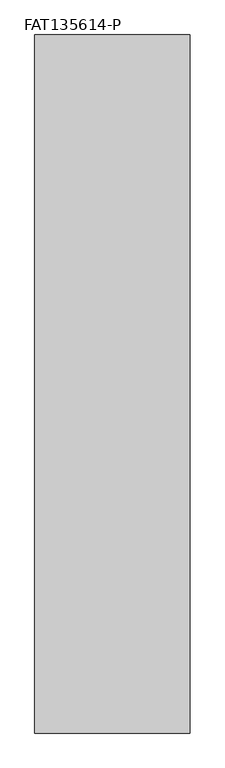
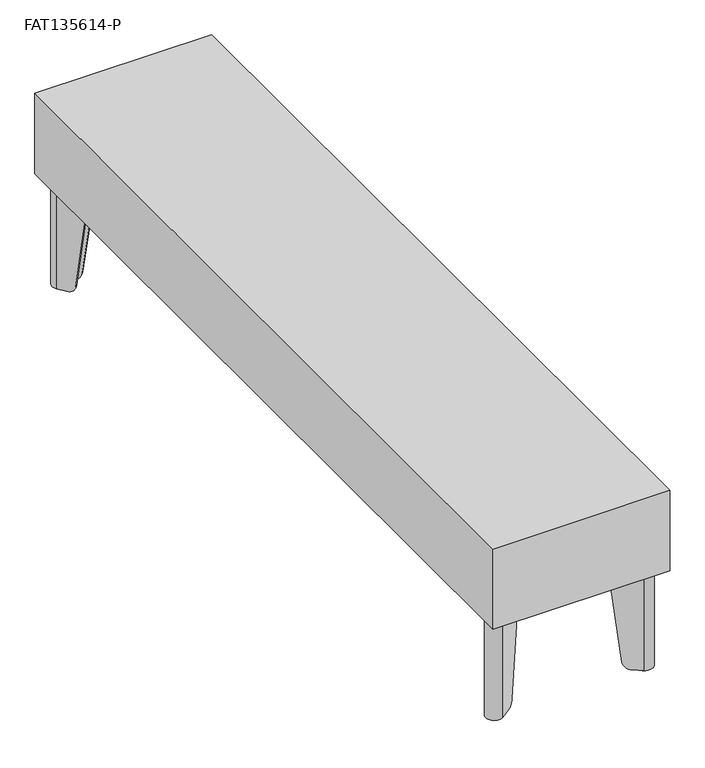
"""IFC4 building model written with IfcOpenShell, lengths in millimetres: furniture geometry, Stance_HC-Flora-Table_Straight : FAT135614-P."""

from ifc_helpers import new_model, si_unit, point, frame, frame_2d, origin, origin_with_axes, place, context, project, spatial, polyline, circle_curve, ellipse_curve, trimmed, segment, composite_curve, outline, extrude, source, transform, mapped, element, save
from ifc_brep_helpers import plane_surface, cylinder_surface, revolved_surface, advanced_brep


def fat135614_p_c2833e48(model_context):
    return source(origin(), model_context, "Body", "SolidModel", [
        extrude(outline(composite_curve([segment(polyline([(274.1779251, -48.593371), (287.4828248, -39.2771437)]), True, "CONTINUOUS"), segment(trimmed(circle_curve(frame_2d((294.1333442, -48.7750329)), 11.5947965), [point((287.4828248, -39.2771437))], [point((303.6312333, -55.4255523))], False, "CARTESIAN"), True, "CONTINUOUS"), segment(polyline([(303.6312333, -55.4255523), (294.315006, -68.730452), (274.1779251, -48.593371)]), True, "CONTINUOUS")], self_intersect=False)), frame((0.0, 0.0, 3.175), z_axis=(0.0, 0.0, 1.0), x_axis=(1.0, 0.0, 0.0)), (0.0, 0.0, 1.0), 3.3792927),
        advanced_brep(
        [(274.3401042, -102.8613619, 193.6877233), (306.2642107, -57.26919, 193.6877233), (285.6391871, -36.6441664, 193.6877233), (240.0470178, -68.568271, 193.6877233), (241.8906556, -71.2012484, 193.6877233), (287.4828248, -39.2771437, 193.6877233), (303.6312333, -55.4255523, 193.6877233), (271.7071268, -101.0177242, 193.6877233), (274.3401042, -102.8613619, 189.1419595), (303.6312333, -55.4255523, 3.1876992), (293.5105238, -69.8793673, 3.1876992), (284.3334277, -82.9855678, 17.1280233), (287.4828248, -39.2771437, 3.1876992), (259.9228092, -58.5749494, 17.1280233), (273.0290098, -49.3978533, 3.1876992), (240.0470178, -68.568271, 189.1419334), (285.6391871, -36.6441664, 3.1876992), (270.7211121, -47.0899556, 3.1876992), (257.6149115, -56.2670517, 17.1280233), (306.2642107, -57.26919, 3.1876992), (286.6413254, -85.2934656, 17.1280233), (295.8184215, -72.187265, 3.1876992)],
        [
            (0, 1),
            (1, 2, circle_curve(frame((294.1333442, -48.7750329, 193.6877233), z_axis=(0.0, 0.0, 1.0), x_axis=(-1.0, 0.0, 0.0)), 14.8090724)),
            (2, 3),
            (3, 4),
            (4, 5),
            (5, 6, circle_curve(frame((294.1333442, -48.7750329, 193.6877233), z_axis=(0.0, 0.0, -1.0), x_axis=(-1.0, 0.0, 0.0)), 11.5947965)),
            (6, 7),
            (7, 0),
            (7, 8),
            (8, 0),
            (6, 9),
            (9, 10),
            (10, 11, ellipse_curve(frame((293.5105238, -69.8793673, 19.0626992), z_axis=(-0.8191509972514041, 0.5735779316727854, 0.0), x_axis=(-0.5735779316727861, -0.8191509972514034, 0.0)), 16.1198923, 15.875)),
            (11, 7),
            (5, 12),
            (12, 9, circle_curve(frame((294.1333442, -48.7750329, 3.1876992), z_axis=(0.0, 0.0, -1.0), x_axis=(-1.0, 0.0, 0.0)), 11.5947965)),
            (4, 13),
            (13, 14, ellipse_curve(frame((273.0290098, -49.3978533, 19.0626992), z_axis=(0.5735779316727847, -0.8191509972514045, 0.0), x_axis=(0.8191509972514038, 0.5735779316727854, 0.0)), 16.1198923, 15.875)),
            (14, 12),
            (3, 15),
            (15, 4),
            (2, 16),
            (16, 17),
            (17, 18, ellipse_curve(frame((270.7211121, -47.0899556, 19.0626992), z_axis=(-0.5735779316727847, 0.8191509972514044, 0.0), x_axis=(0.8191509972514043, 0.573577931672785, 0.0)), 16.1198923, 15.875)),
            (18, 15),
            (1, 19),
            (19, 16, circle_curve(frame((294.1333442, -48.7750329, 3.1876992), z_axis=(0.0, 0.0, 1.0), x_axis=(-1.0, 0.0, 0.0)), 14.8090724)),
            (8, 20),
            (20, 21, ellipse_curve(frame((295.8184215, -72.187265, 19.0626992), z_axis=(0.8191509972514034, -0.5735779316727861, 0.0), x_axis=(-0.5735779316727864, -0.8191509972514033, 0.0)), 16.1198923, 15.875)),
            (21, 19),
            (18, 13),
            (11, 20),
            (21, 10),
            (14, 17),
        ],
        [
            plane_surface(frame((271.7071268, -101.0177242, 193.6877233), z_axis=(0.0, 0.0, 1.0000000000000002), x_axis=(-0.8191509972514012, 0.5735779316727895, 0.0))),
            plane_surface(frame((274.3401042, -102.8613619, 193.6877233), z_axis=(-0.5735779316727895, -0.8191509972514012, 0.0), x_axis=(0.0, 0.0, -1.0))),
            plane_surface(frame((271.7071268, -101.0177242, 193.6877233), z_axis=(-0.8191509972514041, 0.5735779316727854, 0.0), x_axis=(0.0, 0.0, -1.0))),
            revolved_surface(polyline([(282.53854770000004, -48.7750329, 3.1876992), (282.53854770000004, -48.7750329, 193.6877233)]), (294.1333442, -48.7750329, 0.0), (0.0, 0.0, -1.0)),
            plane_surface(frame((287.4828248, -39.2771437, 193.6877233), z_axis=(0.5735779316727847, -0.8191509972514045, 0.0), x_axis=(0.0, 0.0, -1.0))),
            plane_surface(frame((241.8906556, -71.2012484, 193.6877233), z_axis=(-0.8191509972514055, -0.5735779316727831, 0.0), x_axis=(0.0, 0.0, -1.0))),
            plane_surface(frame((240.0470178, -68.568271, 193.6877233), z_axis=(-0.5735779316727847, 0.8191509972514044, 0.0), x_axis=(0.0, 0.0, -1.0))),
            cylinder_surface(frame((294.1333442, -48.7750329, 0.0), z_axis=(0.0, 0.0, 1.0), x_axis=(-1.0, 0.0, 0.0)), 14.8090724),
            plane_surface(frame((306.2642107, -57.26919, 193.6877233), z_axis=(0.8191509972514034, -0.5735779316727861, 0.0), x_axis=(0.0, 0.0, -1.0))),
            plane_surface(frame((251.7311084, -50.3832485, 17.1280233), z_axis=(-0.7018361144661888, -0.7018361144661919, -0.12186934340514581), x_axis=(0.7071067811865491, -0.707106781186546, 0.0))),
            plane_surface(frame((284.2214639, -17.8928931, 3.1876992), z_axis=(0.0, 0.0, -1.0), x_axis=(0.707106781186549, -0.707106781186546, 0.0))),
            cylinder_surface(frame((303.6583998, -80.0272433, 19.0626992), z_axis=(0.7071067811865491, -0.707106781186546, 0.0), x_axis=(-0.707106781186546, -0.7071067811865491, 0.0)), 15.875),
        ],
        [
            (0, [[1, 2, 3, 4, 5, 6, 7, 8]]),
            (1, [[9, 10, -8]]),
            (2, [[11, 12, 13, 14, -7]]),
            (3, [[15, 16, -11, -6]]),
            (4, [[17, 18, 19, -15, -5]]),
            (5, [[20, 21, -4]]),
            (6, [[22, 23, 24, 25, -20, -3]]),
            (7, [[26, 27, -22, -2]]),
            (8, [[-10, 28, 29, 30, -26, -1]]),
            (9, [[-17, -21, -25, 31]]),
            (9, [[-28, -9, -14, 32]]),
            (10, [[-23, -27, -30, 33, -12, -16, -19, 34]]),
            (11, [[-13, -33, -29, -32]]),
            (11, [[-24, -34, -18, -31]]),
        ],
    ),
        extrude(outline(composite_curve([segment(trimmed(circle_curve(frame_2d((292.1, -50.8)), 11.1125), [point((303.2125, -50.8))], [point((280.9875, -50.8))], False, "CARTESIAN"), True, "CONTINUOUS"), segment(trimmed(circle_curve(frame_2d((292.1, -50.8)), 11.1125), [point((280.9875, -50.8))], [point((303.2125, -50.8))], False, "CARTESIAN"), True, "CONTINUOUS")], self_intersect=False)), origin_with_axes(), (0.0, 0.0, 1.0), 3.175),
        extrude(outline(composite_curve([segment(trimmed(circle_curve(frame_2d((295.4524523, -47.4559239)), 15.8749964), [point((294.3450687, -31.6195983))], [point((311.288778, -48.5633073))], False, "CARTESIAN"), True, "CONTINUOUS"), segment(polyline([(311.288778, -48.5633073), (304.2918062, -148.6247029), (274.4414324, -178.4750713), (190.4983323, -152.4100523), (164.4332978, -68.4669439), (194.2836699, -38.6165718), (294.3450687, -31.6195983)]), True, "CONTINUOUS")], self_intersect=False)), frame((0.0, 0.0, 193.6877233), z_axis=(0.0, 0.0, 1.0), x_axis=(1.0, 0.0, 0.0)), (0.0, 0.0, 1.0), 4.7751809),
        extrude(outline(composite_curve([segment(polyline([(274.1779251, -1399.206629), (294.315006, -1379.069548), (303.6312333, -1392.3744477)]), True, "CONTINUOUS"), segment(trimmed(circle_curve(frame_2d((294.1333442, -1399.0249671)), 11.5947965), [point((303.6312333, -1392.3744477))], [point((287.4828248, -1408.5228563))], False, "CARTESIAN"), True, "CONTINUOUS"), segment(polyline([(287.4828248, -1408.5228563), (274.1779251, -1399.206629)]), True, "CONTINUOUS")], self_intersect=False)), frame((0.0, 0.0, 3.175), z_axis=(0.0, 0.0, 1.0), x_axis=(1.0, 0.0, 0.0)), (0.0, 0.0, 1.0), 3.3792927),
        advanced_brep(
        [(274.3401042, -1344.9386381, 193.6877233), (271.7071268, -1346.7822758, 193.6877233), (303.6312333, -1392.3744477, 193.6877233), (287.4828248, -1408.5228563, 193.6877233), (241.8906556, -1376.5987516, 193.6877233), (240.0470178, -1379.231729, 193.6877233), (285.6391871, -1411.1558336, 193.6877233), (306.2642107, -1390.53081, 193.6877233), (274.3401042, -1344.9386381, 189.1419595), (284.3334277, -1364.8144322, 17.1280233), (293.5105238, -1377.9206327, 3.1876992), (303.6312333, -1392.3744477, 3.1876992), (287.4828248, -1408.5228563, 3.1876992), (273.0290098, -1398.4021467, 3.1876992), (259.9228092, -1389.2250506, 17.1280233), (240.0470178, -1379.231729, 189.1419334), (257.6149115, -1391.5329483, 17.1280233), (270.7211121, -1400.7100444, 3.1876992), (285.6391871, -1411.1558336, 3.1876992), (306.2642107, -1390.53081, 3.1876992), (295.8184215, -1375.612735, 3.1876992), (286.6413254, -1362.5065344, 17.1280233)],
        [
            (0, 1),
            (1, 2),
            (2, 3, circle_curve(frame((294.1333442, -1399.0249671, 193.6877233), z_axis=(0.0, 0.0, -1.0), x_axis=(-1.0, 0.0, 0.0)), 11.5947965)),
            (3, 4),
            (4, 5),
            (5, 6),
            (6, 7, circle_curve(frame((294.1333442, -1399.0249671, 193.6877233), z_axis=(0.0, 0.0, 1.0), x_axis=(-1.0, 0.0, 0.0)), 14.8090724)),
            (7, 0),
            (0, 8),
            (8, 1),
            (1, 9),
            (9, 10, ellipse_curve(frame((293.5105238, -1377.9206327, 19.0626992), z_axis=(-0.8191509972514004, -0.5735779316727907, 0.0), x_axis=(-0.5735779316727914, 0.8191509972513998, 0.0)), 16.1198923, 15.875)),
            (10, 11),
            (11, 2),
            (11, 12, circle_curve(frame((294.1333442, -1399.0249671, 3.1876992), z_axis=(0.0, 0.0, -1.0), x_axis=(-1.0, 0.0, 0.0)), 11.5947965)),
            (12, 3),
            (12, 13),
            (13, 14, ellipse_curve(frame((273.0290098, -1398.4021467, 19.0626992), z_axis=(0.5735779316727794, 0.8191509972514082, 0.0), x_axis=(0.8191509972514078, -0.5735779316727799, 0.0)), 16.1198923, 15.875)),
            (14, 4),
            (4, 15),
            (15, 5),
            (15, 16),
            (16, 17, ellipse_curve(frame((270.7211121, -1400.7100444, 19.0626992), z_axis=(-0.5735779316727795, -0.8191509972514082, 0.0), x_axis=(0.8191509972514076, -0.5735779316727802, 0.0)), 16.1198923, 15.875)),
            (17, 18),
            (18, 6),
            (18, 19, circle_curve(frame((294.1333442, -1399.0249671, 3.1876992), z_axis=(0.0, 0.0, 1.0), x_axis=(-1.0, 0.0, 0.0)), 14.8090724)),
            (19, 7),
            (19, 20),
            (20, 21, ellipse_curve(frame((295.8184215, -1375.612735, 19.0626992), z_axis=(0.8191509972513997, 0.5735779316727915, 0.0), x_axis=(-0.573577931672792, 0.8191509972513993, 0.0)), 16.1198923, 15.875)),
            (21, 8),
            (14, 16),
            (21, 9),
            (17, 13),
            (10, 20),
        ],
        [
            plane_surface(frame((271.7071268, -1346.7822758, 193.6877233), z_axis=(0.0, 0.0, 0.9999999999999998), x_axis=(-0.8191509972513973, -0.5735779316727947, 0.0))),
            plane_surface(frame((274.3401042, -1344.9386381, 193.6877233), z_axis=(-0.5735779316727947, 0.8191509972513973, 0.0), x_axis=(0.0, 0.0, -1.0))),
            plane_surface(frame((271.7071268, -1346.7822758, 193.6877233), z_axis=(-0.8191509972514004, -0.5735779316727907, 0.0), x_axis=(0.0, 0.0, -1.0))),
            revolved_surface(polyline([(282.53854770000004, -1399.0249671, 3.1876992), (282.53854770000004, -1399.0249671, 193.6877233)]), (294.1333442, -1399.0249671, 0.0), (0.0, 0.0, -1.0)),
            plane_surface(frame((287.4828248, -1408.5228563, 193.6877233), z_axis=(0.5735779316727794, 0.8191509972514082, 0.0), x_axis=(0.0, 0.0, -1.0))),
            plane_surface(frame((241.8906556, -1376.5987516, 193.6877233), z_axis=(-0.8191509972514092, 0.5735779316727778, 0.0), x_axis=(0.0, 0.0, -1.0))),
            plane_surface(frame((240.0470178, -1379.231729, 193.6877233), z_axis=(-0.5735779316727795, -0.8191509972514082, 0.0), x_axis=(0.0, 0.0, -1.0))),
            cylinder_surface(frame((294.1333442, -1399.0249671, 0.0), z_axis=(0.0, 0.0, 1.0), x_axis=(-1.0, 0.0, 0.0)), 14.8090724),
            plane_surface(frame((306.2642107, -1390.53081, 193.6877233), z_axis=(0.8191509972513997, 0.5735779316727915, 0.0), x_axis=(0.0, 0.0, -1.0))),
            plane_surface(frame((251.7311084, -1397.4167515, 17.1280233), z_axis=(-0.7018361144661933, 0.7018361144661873, -0.12186934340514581), x_axis=(0.7071067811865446, 0.7071067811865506, 0.0))),
            plane_surface(frame((284.2214639, -1429.9071069, 3.1876992), z_axis=(0.0, 0.0, -1.0), x_axis=(0.7071067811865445, 0.7071067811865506, 0.0))),
            cylinder_surface(frame((303.6583998, -1367.7727567, 19.0626992), z_axis=(0.7071067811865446, 0.7071067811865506, 0.0), x_axis=(-0.7071067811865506, 0.7071067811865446, 0.0)), 15.875),
        ],
        [
            (0, [[1, 2, 3, 4, 5, 6, 7, 8]]),
            (1, [[-1, 9, 10]]),
            (2, [[-2, 11, 12, 13, 14]]),
            (3, [[-3, -14, 15, 16]]),
            (4, [[-4, -16, 17, 18, 19]]),
            (5, [[-5, 20, 21]]),
            (6, [[-6, -21, 22, 23, 24, 25]]),
            (7, [[-7, -25, 26, 27]]),
            (8, [[-8, -27, 28, 29, 30, -9]]),
            (9, [[31, -22, -20, -19]]),
            (9, [[32, -11, -10, -30]]),
            (10, [[33, -17, -15, -13, 34, -28, -26, -24]]),
            (11, [[-31, -18, -33, -23]]),
            (11, [[-32, -29, -34, -12]]),
        ],
    ),
        extrude(outline(composite_curve([segment(trimmed(circle_curve(frame_2d((292.1, -1397.0)), 11.1125), [point((303.2125, -1397.0))], [point((280.9875, -1397.0))], False, "CARTESIAN"), True, "CONTINUOUS"), segment(trimmed(circle_curve(frame_2d((292.1, -1397.0)), 11.1125), [point((280.9875, -1397.0))], [point((303.2125, -1397.0))], False, "CARTESIAN"), True, "CONTINUOUS")], self_intersect=False)), origin_with_axes(), (0.0, 0.0, 1.0), 3.175),
        extrude(outline(composite_curve([segment(polyline([(294.3450687, -1416.1804017), (194.2836699, -1409.1834282), (164.4332978, -1379.3330561), (190.4983323, -1295.3899477), (274.4414324, -1269.3249287), (304.2918062, -1299.1752971), (311.288778, -1399.2366927)]), True, "CONTINUOUS"), segment(trimmed(circle_curve(frame_2d((295.4524523, -1400.3440761)), 15.8749964), [point((311.288778, -1399.2366927))], [point((294.3450687, -1416.1804017))], False, "CARTESIAN"), True, "CONTINUOUS")], self_intersect=False)), frame((0.0, 0.0, 193.6877233), z_axis=(0.0, 0.0, 1.0), x_axis=(1.0, 0.0, 0.0)), (0.0, 0.0, 1.0), 4.7751809),
        extrude(outline(composite_curve([segment(polyline([(43.3220749, -1399.206629), (30.0171752, -1408.5228563)]), True, "CONTINUOUS"), segment(trimmed(circle_curve(frame_2d((23.3666558, -1399.0249671)), 11.5947965), [point((30.0171752, -1408.5228563))], [point((13.8687667, -1392.3744477))], False, "CARTESIAN"), True, "CONTINUOUS"), segment(polyline([(13.8687667, -1392.3744477), (23.184994, -1379.069548), (43.3220749, -1399.206629)]), True, "CONTINUOUS")], self_intersect=False)), frame((0.0, 0.0, 3.175), z_axis=(0.0, 0.0, 1.0), x_axis=(1.0, 0.0, 0.0)), (0.0, 0.0, 1.0), 3.3792927),
        advanced_brep(
        [(43.1598958, -1344.9386381, 193.6877233), (11.2357893, -1390.53081, 193.6877233), (31.8608129, -1411.1558336, 193.6877233), (77.4529822, -1379.231729, 193.6877233), (75.6093444, -1376.5987516, 193.6877233), (30.0171752, -1408.5228563, 193.6877233), (13.8687667, -1392.3744477, 193.6877233), (45.7928732, -1346.7822758, 193.6877233), (43.1598958, -1344.9386381, 189.1419595), (13.8687667, -1392.3744477, 3.1876992), (23.9894762, -1377.9206327, 3.1876992), (33.1665723, -1364.8144322, 17.1280233), (30.0171752, -1408.5228563, 3.1876992), (57.5771908, -1389.2250506, 17.1280233), (44.4709902, -1398.4021467, 3.1876992), (77.4529822, -1379.231729, 189.1419334), (31.8608129, -1411.1558336, 3.1876992), (46.7788879, -1400.7100444, 3.1876992), (59.8850885, -1391.5329483, 17.1280233), (11.2357893, -1390.53081, 3.1876992), (30.8586746, -1362.5065344, 17.1280233), (21.6815785, -1375.612735, 3.1876992)],
        [
            (0, 1),
            (1, 2, circle_curve(frame((23.3666558, -1399.0249671, 193.6877233), z_axis=(0.0, 0.0, 1.0), x_axis=(1.0, 0.0, 0.0)), 14.8090724)),
            (2, 3),
            (3, 4),
            (4, 5),
            (5, 6, circle_curve(frame((23.3666558, -1399.0249671, 193.6877233), z_axis=(0.0, 0.0, -1.0), x_axis=(1.0, 0.0, 0.0)), 11.5947965)),
            (6, 7),
            (7, 0),
            (7, 8),
            (8, 0),
            (6, 9),
            (9, 10),
            (10, 11, ellipse_curve(frame((23.9894762, -1377.9206327, 19.0626992), z_axis=(0.8191509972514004, -0.5735779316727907, 0.0), x_axis=(0.5735779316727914, 0.8191509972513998, 0.0)), 16.1198923, 15.875)),
            (11, 7),
            (5, 12),
            (12, 9, circle_curve(frame((23.3666558, -1399.0249671, 3.1876992), z_axis=(0.0, 0.0, -1.0), x_axis=(1.0, 0.0, 0.0)), 11.5947965)),
            (4, 13),
            (13, 14, ellipse_curve(frame((44.4709902, -1398.4021467, 19.0626992), z_axis=(-0.5735779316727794, 0.8191509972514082, 0.0), x_axis=(-0.8191509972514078, -0.5735779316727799, 0.0)), 16.1198923, 15.875)),
            (14, 12),
            (3, 15),
            (15, 4),
            (2, 16),
            (16, 17),
            (17, 18, ellipse_curve(frame((46.7788879, -1400.7100444, 19.0626992), z_axis=(0.5735779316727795, -0.8191509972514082, 0.0), x_axis=(-0.8191509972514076, -0.5735779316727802, 0.0)), 16.1198923, 15.875)),
            (18, 15),
            (1, 19),
            (19, 16, circle_curve(frame((23.3666558, -1399.0249671, 3.1876992), z_axis=(0.0, 0.0, 1.0), x_axis=(1.0, 0.0, 0.0)), 14.8090724)),
            (8, 20),
            (20, 21, ellipse_curve(frame((21.6815785, -1375.612735, 19.0626992), z_axis=(-0.8191509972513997, 0.5735779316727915, 0.0), x_axis=(0.573577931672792, 0.8191509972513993, 0.0)), 16.1198923, 15.875)),
            (21, 19),
            (18, 13),
            (11, 20),
            (21, 10),
            (14, 17),
        ],
        [
            plane_surface(frame((45.7928732, -1346.7822758, 193.6877233), z_axis=(0.0, 0.0, 0.9999999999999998), x_axis=(0.8191509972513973, -0.5735779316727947, 0.0))),
            plane_surface(frame((43.1598958, -1344.9386381, 193.6877233), z_axis=(0.5735779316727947, 0.8191509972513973, 0.0), x_axis=(0.0, 0.0, -1.0))),
            plane_surface(frame((45.7928732, -1346.7822758, 193.6877233), z_axis=(0.8191509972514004, -0.5735779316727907, 0.0), x_axis=(0.0, 0.0, -1.0))),
            revolved_surface(polyline([(34.9614523, -1399.0249671, 3.1876992), (34.9614523, -1399.0249671, 193.6877233)]), (23.3666558, -1399.0249671, 0.0), (0.0, 0.0, -1.0)),
            plane_surface(frame((30.0171752, -1408.5228563, 193.6877233), z_axis=(-0.5735779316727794, 0.8191509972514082, 0.0), x_axis=(0.0, 0.0, -1.0))),
            plane_surface(frame((75.6093444, -1376.5987516, 193.6877233), z_axis=(0.8191509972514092, 0.5735779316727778, 0.0), x_axis=(0.0, 0.0, -1.0))),
            plane_surface(frame((77.4529822, -1379.231729, 193.6877233), z_axis=(0.5735779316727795, -0.8191509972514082, 0.0), x_axis=(0.0, 0.0, -1.0))),
            cylinder_surface(frame((23.3666558, -1399.0249671, 0.0), z_axis=(0.0, 0.0, 1.0), x_axis=(1.0, 0.0, 0.0)), 14.8090724),
            plane_surface(frame((11.2357893, -1390.53081, 193.6877233), z_axis=(-0.8191509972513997, 0.5735779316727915, 0.0), x_axis=(0.0, 0.0, -1.0))),
            plane_surface(frame((65.7688916, -1397.4167515, 17.1280233), z_axis=(0.7018361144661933, 0.7018361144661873, -0.12186934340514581), x_axis=(-0.7071067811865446, 0.7071067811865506, 0.0))),
            plane_surface(frame((33.2785361, -1429.9071069, 3.1876992), z_axis=(0.0, 0.0, -1.0), x_axis=(-0.7071067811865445, 0.7071067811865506, 0.0))),
            cylinder_surface(frame((13.8416002, -1367.7727567, 19.0626992), z_axis=(-0.7071067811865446, 0.7071067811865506, 0.0), x_axis=(0.7071067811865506, 0.7071067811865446, 0.0)), 15.875),
        ],
        [
            (0, [[1, 2, 3, 4, 5, 6, 7, 8]]),
            (1, [[9, 10, -8]]),
            (2, [[11, 12, 13, 14, -7]]),
            (3, [[15, 16, -11, -6]]),
            (4, [[17, 18, 19, -15, -5]]),
            (5, [[20, 21, -4]]),
            (6, [[22, 23, 24, 25, -20, -3]]),
            (7, [[26, 27, -22, -2]]),
            (8, [[-10, 28, 29, 30, -26, -1]]),
            (9, [[-17, -21, -25, 31]]),
            (9, [[-28, -9, -14, 32]]),
            (10, [[-23, -27, -30, 33, -12, -16, -19, 34]]),
            (11, [[-13, -33, -29, -32]]),
            (11, [[-24, -34, -18, -31]]),
        ],
    ),
        extrude(outline(composite_curve([segment(trimmed(circle_curve(frame_2d((25.4, -1397.0)), 11.1125), [point((14.2875, -1397.0))], [point((36.5125, -1397.0))], False, "CARTESIAN"), True, "CONTINUOUS"), segment(trimmed(circle_curve(frame_2d((25.4, -1397.0)), 11.1125), [point((36.5125, -1397.0))], [point((14.2875, -1397.0))], False, "CARTESIAN"), True, "CONTINUOUS")], self_intersect=False)), origin_with_axes(), (0.0, 0.0, 1.0), 3.175),
        extrude(outline(composite_curve([segment(trimmed(circle_curve(frame_2d((22.0475477, -1400.3440761)), 15.8749964), [point((23.1549313, -1416.1804017))], [point((6.211222, -1399.2366927))], False, "CARTESIAN"), True, "CONTINUOUS"), segment(polyline([(6.211222, -1399.2366927), (13.2081938, -1299.1752971), (43.0585676, -1269.3249287), (127.0016677, -1295.3899477), (153.0667022, -1379.3330561), (123.2163301, -1409.1834282), (23.1549313, -1416.1804017)]), True, "CONTINUOUS")], self_intersect=False)), frame((0.0, 0.0, 193.6877233), z_axis=(0.0, 0.0, 1.0), x_axis=(1.0, 0.0, 0.0)), (0.0, 0.0, 1.0), 4.7751809),
        extrude(outline(composite_curve([segment(polyline([(43.3220749, -48.593371), (23.184994, -68.730452), (13.8687667, -55.4255523)]), True, "CONTINUOUS"), segment(trimmed(circle_curve(frame_2d((23.3666558, -48.7750329)), 11.5947965), [point((13.8687667, -55.4255523))], [point((30.0171752, -39.2771437))], False, "CARTESIAN"), True, "CONTINUOUS"), segment(polyline([(30.0171752, -39.2771437), (43.3220749, -48.593371)]), True, "CONTINUOUS")], self_intersect=False)), frame((0.0, 0.0, 3.175), z_axis=(0.0, 0.0, 1.0), x_axis=(1.0, 0.0, 0.0)), (0.0, 0.0, 1.0), 3.3792927),
        advanced_brep(
        [(43.1598958, -102.8613619, 193.6877233), (45.7928732, -101.0177242, 193.6877233), (13.8687667, -55.4255523, 193.6877233), (30.0171752, -39.2771437, 193.6877233), (75.6093444, -71.2012484, 193.6877233), (77.4529822, -68.568271, 193.6877233), (31.8608129, -36.6441664, 193.6877233), (11.2357893, -57.26919, 193.6877233), (43.1598958, -102.8613619, 189.1419595), (33.1665723, -82.9855678, 17.1280233), (23.9894762, -69.8793673, 3.1876992), (13.8687667, -55.4255523, 3.1876992), (30.0171752, -39.2771437, 3.1876992), (44.4709902, -49.3978533, 3.1876992), (57.5771908, -58.5749494, 17.1280233), (77.4529822, -68.568271, 189.1419334), (59.8850885, -56.2670517, 17.1280233), (46.7788879, -47.0899556, 3.1876992), (31.8608129, -36.6441664, 3.1876992), (11.2357893, -57.26919, 3.1876992), (21.6815785, -72.187265, 3.1876992), (30.8586746, -85.2934656, 17.1280233)],
        [
            (0, 1),
            (1, 2),
            (2, 3, circle_curve(frame((23.3666558, -48.7750329, 193.6877233), z_axis=(0.0, 0.0, -1.0), x_axis=(1.0, 0.0, 0.0)), 11.5947965)),
            (3, 4),
            (4, 5),
            (5, 6),
            (6, 7, circle_curve(frame((23.3666558, -48.7750329, 193.6877233), z_axis=(0.0, 0.0, 1.0), x_axis=(1.0, 0.0, 0.0)), 14.8090724)),
            (7, 0),
            (0, 8),
            (8, 1),
            (1, 9),
            (9, 10, ellipse_curve(frame((23.9894762, -69.8793673, 19.0626992), z_axis=(0.8191509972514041, 0.5735779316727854, 0.0), x_axis=(0.5735779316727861, -0.8191509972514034, 0.0)), 16.1198923, 15.875)),
            (10, 11),
            (11, 2),
            (11, 12, circle_curve(frame((23.3666558, -48.7750329, 3.1876992), z_axis=(0.0, 0.0, -1.0), x_axis=(1.0, 0.0, 0.0)), 11.5947965)),
            (12, 3),
            (12, 13),
            (13, 14, ellipse_curve(frame((44.4709902, -49.3978533, 19.0626992), z_axis=(-0.5735779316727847, -0.8191509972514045, 0.0), x_axis=(-0.8191509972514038, 0.5735779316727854, 0.0)), 16.1198923, 15.875)),
            (14, 4),
            (4, 15),
            (15, 5),
            (15, 16),
            (16, 17, ellipse_curve(frame((46.7788879, -47.0899556, 19.0626992), z_axis=(0.5735779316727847, 0.8191509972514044, 0.0), x_axis=(-0.8191509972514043, 0.573577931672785, 0.0)), 16.1198923, 15.875)),
            (17, 18),
            (18, 6),
            (18, 19, circle_curve(frame((23.3666558, -48.7750329, 3.1876992), z_axis=(0.0, 0.0, 1.0), x_axis=(1.0, 0.0, 0.0)), 14.8090724)),
            (19, 7),
            (19, 20),
            (20, 21, ellipse_curve(frame((21.6815785, -72.187265, 19.0626992), z_axis=(-0.8191509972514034, -0.5735779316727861, 0.0), x_axis=(0.5735779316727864, -0.8191509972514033, 0.0)), 16.1198923, 15.875)),
            (21, 8),
            (14, 16),
            (21, 9),
            (17, 13),
            (10, 20),
        ],
        [
            plane_surface(frame((45.7928732, -101.0177242, 193.6877233), z_axis=(0.0, 0.0, 1.0000000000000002), x_axis=(0.8191509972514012, 0.5735779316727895, 0.0))),
            plane_surface(frame((43.1598958, -102.8613619, 193.6877233), z_axis=(0.5735779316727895, -0.8191509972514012, 0.0), x_axis=(0.0, 0.0, -1.0))),
            plane_surface(frame((45.7928732, -101.0177242, 193.6877233), z_axis=(0.8191509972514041, 0.5735779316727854, 0.0), x_axis=(0.0, 0.0, -1.0))),
            revolved_surface(polyline([(34.9614523, -48.7750329, 3.1876992), (34.9614523, -48.7750329, 193.6877233)]), (23.3666558, -48.7750329, 0.0), (0.0, 0.0, -1.0)),
            plane_surface(frame((30.0171752, -39.2771437, 193.6877233), z_axis=(-0.5735779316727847, -0.8191509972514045, 0.0), x_axis=(0.0, 0.0, -1.0))),
            plane_surface(frame((75.6093444, -71.2012484, 193.6877233), z_axis=(0.8191509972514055, -0.5735779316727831, 0.0), x_axis=(0.0, 0.0, -1.0))),
            plane_surface(frame((77.4529822, -68.568271, 193.6877233), z_axis=(0.5735779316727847, 0.8191509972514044, 0.0), x_axis=(0.0, 0.0, -1.0))),
            cylinder_surface(frame((23.3666558, -48.7750329, 0.0), z_axis=(0.0, 0.0, 1.0), x_axis=(1.0, 0.0, 0.0)), 14.8090724),
            plane_surface(frame((11.2357893, -57.26919, 193.6877233), z_axis=(-0.8191509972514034, -0.5735779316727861, 0.0), x_axis=(0.0, 0.0, -1.0))),
            plane_surface(frame((65.7688916, -50.3832485, 17.1280233), z_axis=(0.7018361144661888, -0.7018361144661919, -0.12186934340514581), x_axis=(-0.7071067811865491, -0.707106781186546, 0.0))),
            plane_surface(frame((33.2785361, -17.8928931, 3.1876992), z_axis=(0.0, 0.0, -1.0), x_axis=(-0.707106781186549, -0.707106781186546, 0.0))),
            cylinder_surface(frame((13.8416002, -80.0272433, 19.0626992), z_axis=(-0.7071067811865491, -0.707106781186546, 0.0), x_axis=(0.707106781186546, -0.7071067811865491, 0.0)), 15.875),
        ],
        [
            (0, [[1, 2, 3, 4, 5, 6, 7, 8]]),
            (1, [[-1, 9, 10]]),
            (2, [[-2, 11, 12, 13, 14]]),
            (3, [[-3, -14, 15, 16]]),
            (4, [[-4, -16, 17, 18, 19]]),
            (5, [[-5, 20, 21]]),
            (6, [[-6, -21, 22, 23, 24, 25]]),
            (7, [[-7, -25, 26, 27]]),
            (8, [[-8, -27, 28, 29, 30, -9]]),
            (9, [[31, -22, -20, -19]]),
            (9, [[32, -11, -10, -30]]),
            (10, [[33, -17, -15, -13, 34, -28, -26, -24]]),
            (11, [[-31, -18, -33, -23]]),
            (11, [[-32, -29, -34, -12]]),
        ],
    ),
        extrude(outline(composite_curve([segment(trimmed(circle_curve(frame_2d((25.4, -50.8)), 11.1125), [point((14.2875, -50.8))], [point((36.5125, -50.8))], False, "CARTESIAN"), True, "CONTINUOUS"), segment(trimmed(circle_curve(frame_2d((25.4, -50.8)), 11.1125), [point((36.5125, -50.8))], [point((14.2875, -50.8))], False, "CARTESIAN"), True, "CONTINUOUS")], self_intersect=False)), origin_with_axes(), (0.0, 0.0, 1.0), 3.175),
        extrude(outline(composite_curve([segment(polyline([(23.1549313, -31.6195983), (123.2163301, -38.6165718), (153.0667022, -68.4669439), (127.0016677, -152.4100523), (43.0585676, -178.4750713), (13.2081938, -148.6247029), (6.211222, -48.5633073)]), True, "CONTINUOUS"), segment(trimmed(circle_curve(frame_2d((22.0475477, -47.4559239)), 15.8749964), [point((6.211222, -48.5633073))], [point((23.1549313, -31.6195983))], False, "CARTESIAN"), True, "CONTINUOUS")], self_intersect=False)), frame((0.0, 0.0, 193.6877233), z_axis=(0.0, 0.0, 1.0), x_axis=(1.0, 0.0, 0.0)), (0.0, 0.0, 1.0), 4.7751809),
        extrude(outline(polyline([(317.5, -11.1125), (317.5, -1436.6875), (0.0, -1436.6875), (0.0, -11.1125), (317.5, -11.1125)])), frame((0.0, 0.0, 196.85), z_axis=(0.0, 0.0, 1.0), x_axis=(1.0, 0.0, 0.0)), (0.0, 0.0, 1.0), 152.399991),
    ])


if __name__ == "__main__":
    model = new_model("IFC4")
    model_context = context("Model", 3, world=origin())
    ifc_project = project(units=[si_unit("LENGTHUNIT", "METRE", prefix="MILLI")], contexts=[model_context])
    site = spatial("IfcSite", under=ifc_project)
    building = spatial("IfcBuilding", under=site)
    placement = place(None, origin())
    fat135614_p_shape = fat135614_p_c2833e48(model_context)
    element("IfcFurniture", 1, ObjectType="Stance_HC-Flora-Table_Straight : FAT135614-P", at=placement, inside=building, context=model_context, shape_type="MappedRepresentation", body=[
        mapped(fat135614_p_shape, transform((0.0, 0.0, 0.0), x_axis=(1.0, 0.0, 0.0), y_axis=(0.0, 1.0, 0.0), z_axis=(0.0, 0.0, 1.0))),
    ])
    save(model, "model.ifc")
